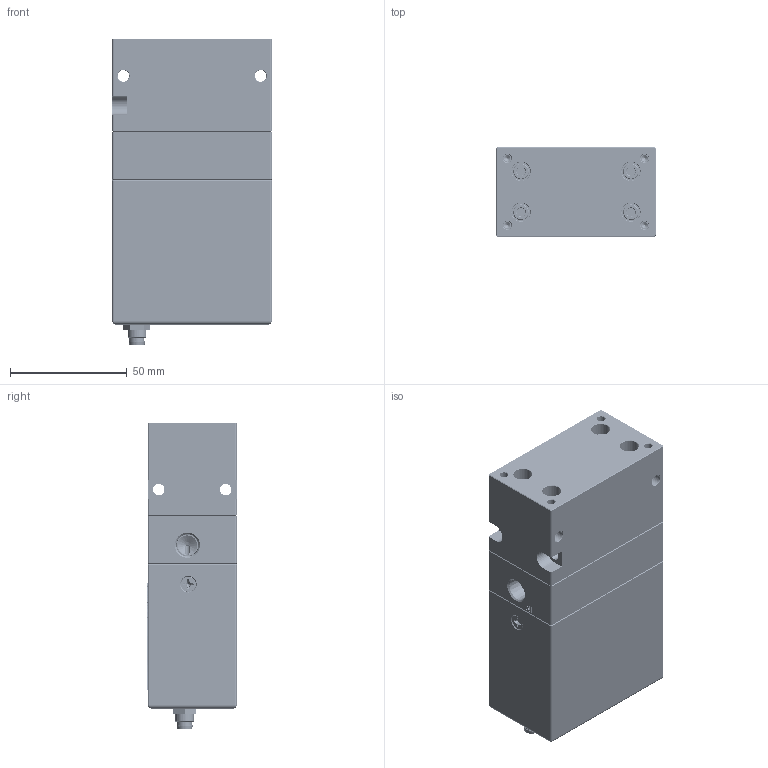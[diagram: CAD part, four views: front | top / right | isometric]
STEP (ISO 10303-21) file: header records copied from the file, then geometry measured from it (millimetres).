
FILE_DESCRIPTION (( 'STEP AP203' ), '1' );
FILE_NAME ('400400.STEP', '2023-04-04T17:19:43', ( '' ), ( '' ), 'SwSTEP 2.0', 'SolidWorks 2022', '' );
FILE_SCHEMA (( 'CONFIG_CONTROL_DESIGN' ));
Length unit declared in the file: inch
Products named in the file (12): 200974; 91771A144_91771A144; 200932; 100242_92196A203; 100390_92196A196; 76_6119_1111_00008-0200; 400400; 102134; TR1-XXXXX-00X; 200931; 200928; Artemis Servo Rev G(2)
Assembly tree (18 placements, depth 2):
  400400
    200928
    102134  x2
    TR1-XXXXX-00X
    200931
    200974
    Artemis Servo Rev G(2)
    200932
    100390_92196A196  x3
    76_6119_1111_00008-0200
    100242_92196A203  x4
    91771A144_91771A144  x2
Bounding box: 68.26 x 38.23 x 131.06 mm (x, y, z)
Volume: 207070.3 mm3; surface area: 105628.6 mm2
Topology: 151 solids, 156 shells, 9003 faces, 22652 edges, 14177 vertices
Faces by surface type: plane 5960, cylinder 1490, bspline 778, cone 700, torus 54, sphere 21
Full cylindrical faces by diameter (mm): 0.155 x1, 0.6 x8, 0.8 x8, 0.9 x4, 1.27 x1, 1.778 x5, 2.381 x4, 2.705 x4, 3.454 x7, 3.505 x14, 3.734 x2, 3.797 x2, 3.8 x1, 4.039 x2, 4.166 x96, 4.305 x3, 4.496 x4, 4.762 x2, 4.915 x4, 6.5 x1, 6.85 x2, 6.9 x1, 7.366 x3, 7.938 x4, 8 x3, 8.433 x2, 9.25 x1, 19.05 x2, 19.177 x1
Entity records: 260628 total; most frequent: CARTESIAN_POINT 79559, ORIENTED_EDGE 38594, DIRECTION 34117, EDGE_CURVE 19297, LINE 14137, VECTOR 14137, VERTEX_POINT 12358, AXIS2_PLACEMENT_3D 9990
